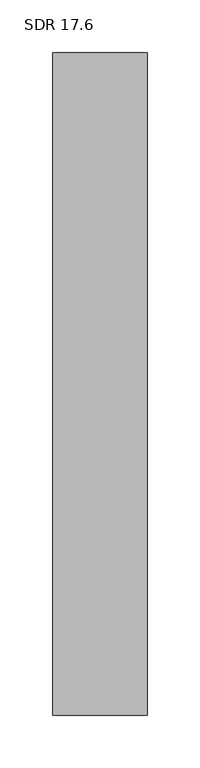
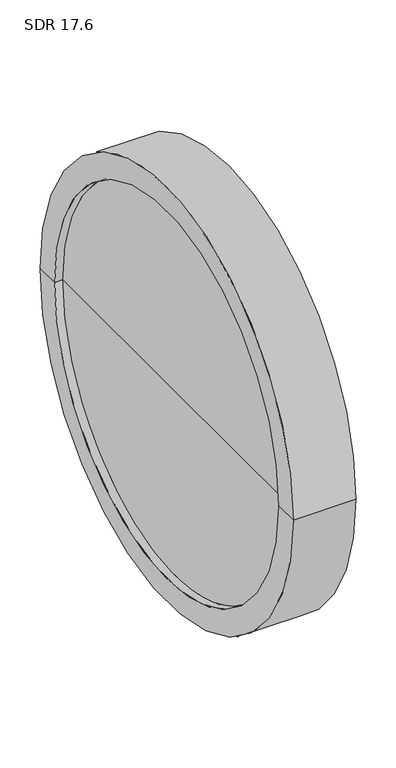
"""IFC4 building model written with IfcOpenShell, lengths in millimetres: pipe fitting geometry, Aquatherm - End Cap Butt-Weld : SDR 17.6."""

from ifc_helpers import new_model, si_unit, frame, origin, place, context, project, spatial, polyline, circle_curve, source, transform, mapped, element, save
from ifc_brep_helpers import plane_surface, cylinder_surface, revolved_surface, advanced_brep


def sdr_17_6_abb0332c(model_context):
    return source(origin(), model_context, "Body", "AdvancedBrep", [
        advanced_brep(
        [(89.916, -314.96, 0.0), (89.916, 314.96, 0.0), (89.916, 0.0, 0.0), (11.938, 0.0, 0.0), (11.938, 279.4, 0.0), (11.938, -279.4, 0.0), (0.0, 279.4, 0.0), (0.0, -279.4, 0.0), (0.0, 314.96, 0.0), (0.0, -314.96, 0.0)],
        [
            (0, 1, circle_curve(frame((89.916, 0.0, 0.0), z_axis=(1.0, 0.0, 0.0), x_axis=(0.0, 1.0, 0.0)), 314.96)),
            (1, 2),
            (2, 0),
            (1, 0, circle_curve(frame((89.916, 0.0, 0.0), z_axis=(1.0, 0.0, 0.0), x_axis=(0.0, 1.0, 0.0)), 314.96)),
            (3, 4),
            (4, 5, circle_curve(frame((11.938, 0.0, 0.0), z_axis=(-1.0, 0.0, 0.0), x_axis=(0.0, 1.0, 0.0)), 279.4)),
            (5, 3),
            (5, 4, circle_curve(frame((11.938, 0.0, 0.0), z_axis=(-1.0, 0.0, 0.0), x_axis=(0.0, 1.0, 0.0)), 279.4)),
            (4, 6),
            (6, 7, circle_curve(frame((0.0, 0.0, 0.0), z_axis=(-1.0, 0.0, 0.0), x_axis=(0.0, 1.0, 0.0)), 279.4)),
            (7, 5),
            (7, 6, circle_curve(frame((0.0, 0.0, 0.0), z_axis=(-1.0, 0.0, 0.0), x_axis=(0.0, 1.0, 0.0)), 279.4)),
            (6, 8),
            (8, 9, circle_curve(frame((0.0, 0.0, 0.0), z_axis=(-1.0, 0.0, 0.0), x_axis=(0.0, 1.0, 0.0)), 314.96)),
            (9, 7),
            (9, 8, circle_curve(frame((0.0, 0.0, 0.0), z_axis=(-1.0, 0.0, 0.0), x_axis=(0.0, 1.0, 0.0)), 314.96)),
            (8, 1),
            (0, 9),
        ],
        [
            plane_surface(frame((89.916, 0.0, 0.0), z_axis=(1.0, 0.0, 0.0), x_axis=(0.0, 1.0, 0.0))),
            plane_surface(frame((11.938, 0.0, 0.0), z_axis=(-1.0, 0.0, 0.0), x_axis=(0.0, 1.0, 0.0))),
            revolved_surface(polyline([(0.0, 279.4, 0.0), (11.938000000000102, 279.4, 0.0)]), (-1354.074, 0.0, 0.0), (-1.0, 0.0, 0.0)),
            plane_surface(frame((0.0, 0.0, 0.0), z_axis=(-1.0, 0.0, 0.0), x_axis=(0.0, 1.0, 0.0))),
            cylinder_surface(frame((-1354.074, 0.0, 0.0), z_axis=(-1.0, 0.0, 0.0), x_axis=(0.0, 1.0, 0.0)), 314.96),
        ],
        [
            (0, [[1, 2, 3]]),
            (0, [[4, -3, -2]]),
            (1, [[5, 6, 7]]),
            (1, [[-7, 8, -5]]),
            (2, [[-6, 9, 10, 11]]),
            (2, [[-8, -11, 12, -9]]),
            (3, [[-10, 13, 14, 15]]),
            (3, [[-12, -15, 16, -13]]),
            (4, [[-14, 17, -1, 18]]),
            (4, [[-16, -18, -4, -17]]),
        ],
    ),
    ])


if __name__ == "__main__":
    model = new_model("IFC4")
    model_context = context("Model", 3, world=origin())
    ifc_project = project(units=[si_unit("LENGTHUNIT", "METRE", prefix="MILLI")], contexts=[model_context])
    site = spatial("IfcSite", under=ifc_project)
    building = spatial("IfcBuilding", under=site)
    placement = place(None, origin())
    sdr_17_6_shape = sdr_17_6_abb0332c(model_context)
    element("IfcPipeFitting", 1, ObjectType="Aquatherm - End Cap Butt-Weld : SDR 17.6", at=placement, inside=building, context=model_context, shape_type="MappedRepresentation", body=[
        mapped(sdr_17_6_shape, transform((0.0, 0.0, 0.0), x_axis=(1.0, 0.0, 0.0), y_axis=(0.0, 1.0, 0.0), z_axis=(0.0, 0.0, 1.0))),
    ])
    save(model, "model.ifc")
